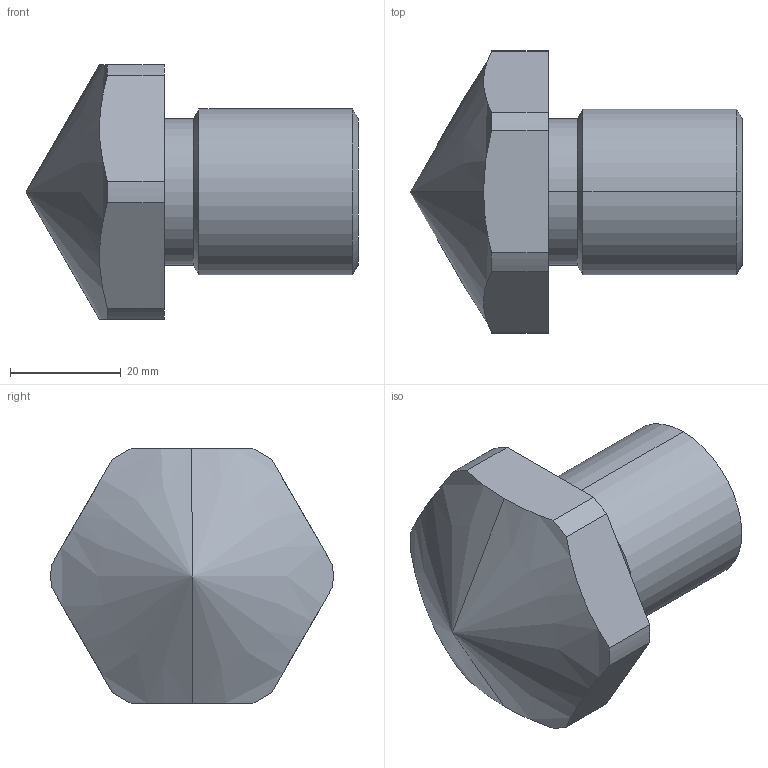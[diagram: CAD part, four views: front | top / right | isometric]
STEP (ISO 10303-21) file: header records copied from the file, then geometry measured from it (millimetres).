
FILE_DESCRIPTION (( 'STEP AP203' ), '1' );
FILE_NAME ('GERMA_Druckstueck_mit_Spitze_DS-30.STEP', '2023-09-12T06:39:20', ( '' ), ( '' ), 'SwSTEP 2.0', 'SolidWorks 2016', '' );
FILE_SCHEMA (( 'CONFIG_CONTROL_DESIGN' ));
Length unit declared in the file: millimetre
Products named in the file (1): GERMA_Druckstueck_mit_Spitze_DS-30
Bounding box: 60 x 50.98 x 46 mm (x, y, z)
Volume: 52371.1 mm3; surface area: 9057.8 mm2
Topology: 1 solids, 1 shells, 24 faces, 60 edges, 37 vertices
Faces by surface type: cylinder 10, plane 8, cone 6
Entity records: 837 total; most frequent: CARTESIAN_POINT 192, DIRECTION 122, ORIENTED_EDGE 116, EDGE_CURVE 58, AXIS2_PLACEMENT_3D 47, VERTEX_POINT 37, VECTOR 28, LINE 28
